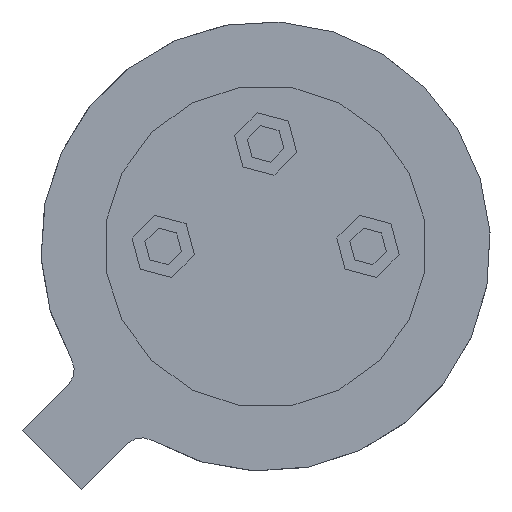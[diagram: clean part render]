
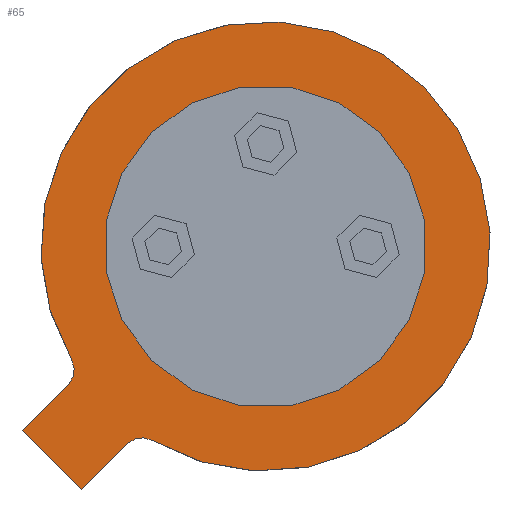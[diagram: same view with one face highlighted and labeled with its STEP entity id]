
A CAD part, front view. The second image highlights one B-rep face of the part: STEP entity #65.
In plain terms, the highlighted planar face has unit normal (0, -1, 0).
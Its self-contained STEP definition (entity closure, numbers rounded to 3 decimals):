
#5 = CARTESIAN_POINT ( 'NONE',  ( 0., 0., -0.52 ) ) ;
#8 = CARTESIAN_POINT ( 'NONE',  ( 0., 0., 0.52 ) ) ;
#20 = VERTEX_POINT ( 'NONE', #231 ) ;
#21 = CARTESIAN_POINT ( 'NONE',  ( 0., 0., 0. ) ) ;
#34 = AXIS2_PLACEMENT_3D ( 'NONE', #609, #1563, #853 ) ;
#62 = CARTESIAN_POINT ( 'NONE',  ( -2.938, 0., 0.52 ) ) ;
#64 = CIRCLE ( 'NONE', #1204, 0.25 ) ;
#65 = ADVANCED_FACE ( 'NONE', ( #1584, #1555 ), #718, .T. ) ;
#113 = DIRECTION ( 'NONE',  ( 0., -1., 0. ) ) ;
#133 = CARTESIAN_POINT ( 'NONE',  ( 0., 0., 0. ) ) ;
#148 = DIRECTION ( 'NONE',  ( 0., 1., 0. ) ) ;
#187 = ORIENTED_EDGE ( 'NONE', *, *, #1465, .F. ) ;
#206 = AXIS2_PLACEMENT_3D ( 'NONE', #428, #113, #829 ) ;
#215 = ORIENTED_EDGE ( 'NONE', *, *, #1820, .T. ) ;
#231 = CARTESIAN_POINT ( 'NONE',  ( -3.752, 0., 0.52 ) ) ;
#233 = EDGE_LOOP ( 'NONE', ( #916, #1554 ) ) ;
#266 = VERTEX_POINT ( 'NONE', #1436 ) ;
#278 = DIRECTION ( 'NONE',  ( 0., -1., 0. ) ) ;
#306 = AXIS2_PLACEMENT_3D ( 'NONE', #133, #278, #839 ) ;
#313 = VERTEX_POINT ( 'NONE', #540 ) ;
#405 = LINE ( 'NONE', #8, #1583 ) ;
#428 = CARTESIAN_POINT ( 'NONE',  ( 0., 0., 0. ) ) ;
#458 = CARTESIAN_POINT ( 'NONE',  ( 0., 0., 0. ) ) ;
#466 = DIRECTION ( 'NONE',  ( 0., 1., 0. ) ) ;
#472 = AXIS2_PLACEMENT_3D ( 'NONE', #458, #1599, #1285 ) ;
#540 = CARTESIAN_POINT ( 'NONE',  ( -2., 0., 0. ) ) ;
#543 = CARTESIAN_POINT ( 'NONE',  ( 2., 0., 0. ) ) ;
#570 = AXIS2_PLACEMENT_3D ( 'NONE', #1624, #1265, #1761 ) ;
#595 = DIRECTION ( 'NONE',  ( -1., 0., 0. ) ) ;
#606 = EDGE_CURVE ( 'NONE', #1607, #1756, #798, .T. ) ;
#609 = CARTESIAN_POINT ( 'NONE',  ( -2.938, 0., -0.77 ) ) ;
#621 = DIRECTION ( 'NONE',  ( -1., 0., 0. ) ) ;
#651 = EDGE_CURVE ( 'NONE', #934, #20, #1429, .T. ) ;
#718 = PLANE ( 'NONE',  #206 ) ;
#726 = CIRCLE ( 'NONE', #34, 0.25 ) ;
#731 = CIRCLE ( 'NONE', #306, 2. ) ;
#798 = CIRCLE ( 'NONE', #1209, 2.788 ) ;
#802 = ORIENTED_EDGE ( 'NONE', *, *, #651, .F. ) ;
#811 = ORIENTED_EDGE ( 'NONE', *, *, #606, .F. ) ;
#829 = DIRECTION ( 'NONE',  ( 1., 0., 0. ) ) ;
#830 = EDGE_CURVE ( 'NONE', #1855, #1607, #1496, .T. ) ;
#837 = ORIENTED_EDGE ( 'NONE', *, *, #830, .F. ) ;
#839 = DIRECTION ( 'NONE',  ( 1., 0., 0. ) ) ;
#853 = DIRECTION ( 'NONE',  ( 1., 0., 0. ) ) ;
#859 = VECTOR ( 'NONE', #974, 1000. ) ;
#916 = ORIENTED_EDGE ( 'NONE', *, *, #1515, .F. ) ;
#934 = VERTEX_POINT ( 'NONE', #1643 ) ;
#974 = DIRECTION ( 'NONE',  ( 0., 0., 1. ) ) ;
#1002 = EDGE_LOOP ( 'NONE', ( #837, #215, #1695, #802, #187, #1092, #811 ) ) ;
#1037 = CARTESIAN_POINT ( 'NONE',  ( -3.752, 0., -0.52 ) ) ;
#1040 = DIRECTION ( 'NONE',  ( 1., 0., 0. ) ) ;
#1041 = LINE ( 'NONE', #5, #1692 ) ;
#1091 = EDGE_CURVE ( 'NONE', #20, #1667, #405, .T. ) ;
#1092 = ORIENTED_EDGE ( 'NONE', *, *, #1587, .T. ) ;
#1143 = DIRECTION ( 'NONE',  ( 1., 0., 0. ) ) ;
#1165 = CARTESIAN_POINT ( 'NONE',  ( -2.938, 0., 0.77 ) ) ;
#1166 = CIRCLE ( 'NONE', #570, 2. ) ;
#1173 = CARTESIAN_POINT ( 'NONE',  ( -2.696, 0., -0.707 ) ) ;
#1204 = AXIS2_PLACEMENT_3D ( 'NONE', #1165, #466, #1040 ) ;
#1209 = AXIS2_PLACEMENT_3D ( 'NONE', #21, #148, #621 ) ;
#1219 = VERTEX_POINT ( 'NONE', #543 ) ;
#1265 = DIRECTION ( 'NONE',  ( 0., -1., 0. ) ) ;
#1285 = DIRECTION ( 'NONE',  ( -1., 0., 0. ) ) ;
#1302 = EDGE_CURVE ( 'NONE', #313, #1219, #1166, .T. ) ;
#1429 = LINE ( 'NONE', #1037, #859 ) ;
#1436 = CARTESIAN_POINT ( 'NONE',  ( -2.938, 0., -0.52 ) ) ;
#1442 = CARTESIAN_POINT ( 'NONE',  ( -2.696, 0., 0.707 ) ) ;
#1465 = EDGE_CURVE ( 'NONE', #266, #934, #1041, .T. ) ;
#1496 = CIRCLE ( 'NONE', #472, 2.788 ) ;
#1515 = EDGE_CURVE ( 'NONE', #1219, #313, #731, .T. ) ;
#1554 = ORIENTED_EDGE ( 'NONE', *, *, #1302, .F. ) ;
#1555 = FACE_OUTER_BOUND ( 'NONE', #1002, .T. ) ;
#1563 = DIRECTION ( 'NONE',  ( 0., 1., 0. ) ) ;
#1583 = VECTOR ( 'NONE', #1143, 1000. ) ;
#1584 = FACE_BOUND ( 'NONE', #233, .T. ) ;
#1587 = EDGE_CURVE ( 'NONE', #266, #1756, #726, .T. ) ;
#1599 = DIRECTION ( 'NONE',  ( 0., 1., 0. ) ) ;
#1607 = VERTEX_POINT ( 'NONE', #1731 ) ;
#1624 = CARTESIAN_POINT ( 'NONE',  ( 0., 0., 0. ) ) ;
#1643 = CARTESIAN_POINT ( 'NONE',  ( -3.752, 0., -0.52 ) ) ;
#1667 = VERTEX_POINT ( 'NONE', #62 ) ;
#1692 = VECTOR ( 'NONE', #595, 1000. ) ;
#1695 = ORIENTED_EDGE ( 'NONE', *, *, #1091, .F. ) ;
#1731 = CARTESIAN_POINT ( 'NONE',  ( 2.788, 0., 0. ) ) ;
#1756 = VERTEX_POINT ( 'NONE', #1173 ) ;
#1761 = DIRECTION ( 'NONE',  ( 1., 0., 0. ) ) ;
#1820 = EDGE_CURVE ( 'NONE', #1855, #1667, #64, .T. ) ;
#1855 = VERTEX_POINT ( 'NONE', #1442 ) ;
